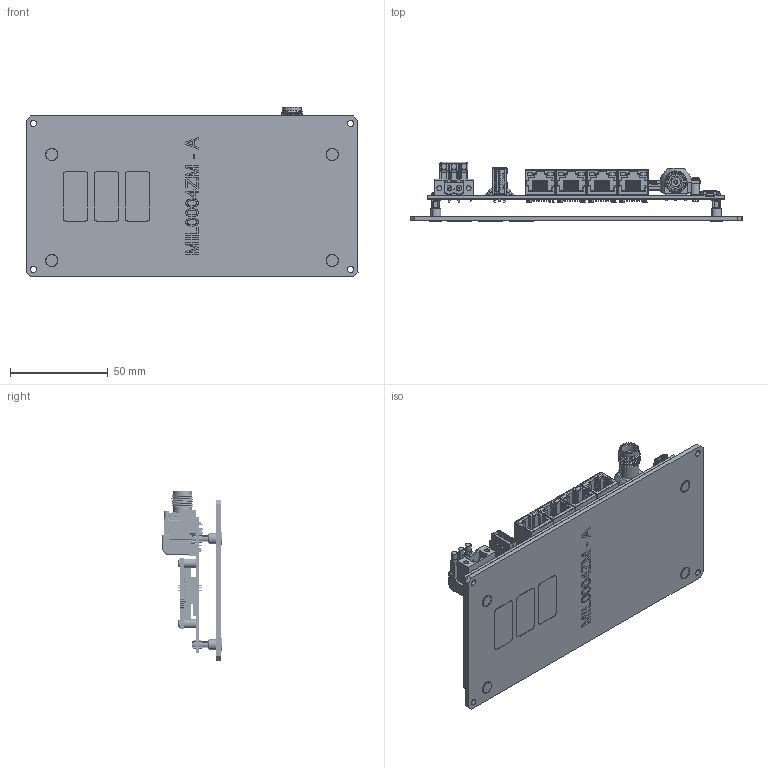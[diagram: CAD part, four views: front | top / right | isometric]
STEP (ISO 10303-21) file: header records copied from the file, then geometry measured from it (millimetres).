
FILE_DESCRIPTION (( 'STEP AP214' ), '1' );
FILE_NAME ('Z9-P2.STEP', '2018-12-16T00:01:08', ( '' ), ( '' ), 'SwSTEP 2.0', 'SolidWorks 2016', '' );
FILE_SCHEMA (( 'AUTOMOTIVE_DESIGN' ));
Length unit declared in the file: inch
Products named in the file (84): Adhesive_MicroUSB; epc0091xa81315n top; 0402_ECA0105XV; 0402_ERE0000FP; ECN0280MS (J7); AB07_EXT3276SZ; 0603_ECA0106SX; 0402_ERE2002FP; ECN1478FS (J3); FA238_EXT0024CS; 0402_ECA0104FX; 0402_ERE475RFP; _C_0702_pins_4; XTAL_ABM3C_EXT1474AA; 0402_ECA0104LS; 0402_ERE1002FP; CLT_107_02_G_D_socket; QFN14HS_EIC6302PS; 0402_ECA0103FX; 0402_ERE0330FP; ECN0002AA (J1); SOTFL50P160X606N_EIC1020SS; epc0091xa81315n bottom_Z9-T; MST0206SFMM2_MST0206SFMM2; EOP0002ZM; SOP65P640X11016N_EIC1674SS; LLR0080SP; MTH093X180_MTH093X180; RLPH3-3_1; SO8_3_94_EIC2432SE; TMM-107-01-G-D-SM-A-P-TR; LLR0070SP; XROUNDTOP_LARGE_XROUNDTOP1_6; LPR3-600-800_1; MLF2X2_EIC5310PS; _TMM-107-01-G-D-SM_pin; MIL0004ZM; EIN0472PS_EIN0102PT; ECN5120TR (J4); SOIC8_5_4_EIC2564FS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
Assembly tree (221 placements, depth 6):
  MST0206SFMM2_MST0206SFMM2
  MTH093X180_MTH093X180
  XROUNDTOP_LARGE_XROUNDTOP1_6
  MTH030_TP30
  Z9-P2
    Z9-P2_BoardSet
      AII0001AA_Z9-P Version
        EPC0095AB
        ECN4758MS (J18)
        ECN0502FR (J12)
        ECN5120TR (J4)
        EOP0002ZM
          LPR3-600-800_1
          RLPH3-3_1
        ECN0002AA (J1)
        ECN1478FS (J3)
          CLT_107_02_G_D_socket
          _C_0702_pins_4
        ECN0280MS (J7)
        Adhesive_MicroUSB
        EOP0062RG LED  x3
        Adhesive_USB-TypeA
        EIC3352AM
        RJ45 (Link-PP)_ECN9717AA  x2
        RJ45 (Link-PP)_ECN9718AA  x2
        PEM YSMTSO-65836-ET  x4
      McMaster-Carr 91772A073_91772A073  x4
      Z9-C&T_AMT0100AB
        EPC0091XA_Single PCB
        TMM-107-01-G-D-SM-A-P-TR
          _TMM-107-01-G-D-SM-A-P-TR_body
          _TMM-107-01-G-D-SM_pin  x26
        Thor-A_emn_Z9-T
          epc0091xa81315n bottom_Z9-T
            LLR0080SP
          epc0091xa81315n top
            0402_ECA0103FX  x8
            0402_ECA0104LS  x2
            0402_ECA0104FX  x16
            0603_ECA0106SX  x5
            0402_ECA0105XV  x8
            0402_ECA0220FC  x3
            0402_ECA0120FC  x2
            0402_ECA0180FC  x2
            0402_ECA0020FP  x5
            EOP0026RG_EOP0062RG  x3
            SC703_EDI0099SD  x10
            0805IND_EIN0103FS
            0402_EIN0101FG
            0402_EIN0082FW  x2
            0805IND_EFI0805FB  x2
            EIN0472PS_EIN0102PT
            0402_ERE0330FP  x25
            0402_ERE1002FP  x12
            0402_ERE475RFP  x2
            0402_ERE2002FP
            0402_ERE0000FP  x10
            0402_ERE1004FP
            0402_ERE1001FP
            0402_ERE2001FP  x4
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Bounding box: 170.18 x 30.52 x 87.07 mm (x, y, z)
Volume: 74596.9 mm3; surface area: 89733 mm2
Topology: 244 solids, 244 shells, 6493 faces, 16664 edges, 11019 vertices
Faces by surface type: plane 4549, cylinder 1511, cone 215, bspline 162, torus 40, sphere 16
Entity records: 145438 total; most frequent: CARTESIAN_POINT 28940, ORIENTED_EDGE 21312, DIRECTION 20145, EDGE_CURVE 10656, VECTOR 7809, LINE 7809, VERTEX_POINT 7143, AXIS2_PLACEMENT_3D 6168
